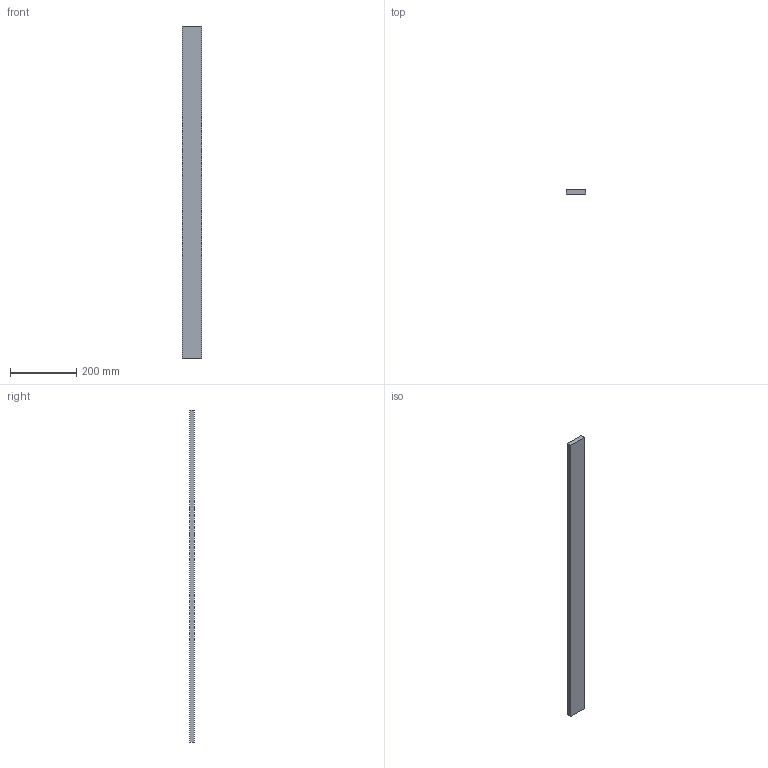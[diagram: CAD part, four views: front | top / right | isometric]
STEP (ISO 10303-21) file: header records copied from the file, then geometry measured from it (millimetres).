
FILE_DESCRIPTION(/* description */ (''),/* implementation_level */ '2;1');
FILE_NAME(/* name */ 'C:\Users\AMS43\Documents\Inventor\AMS\misumi\\X2\30B930DA30B730E330EB30D530EC30FC30E0\X0\_ipt\\X2\30B930DA30B730E330EB30D530EC30FC30E0\X0\_stp\AFFB-06015.ipt.stp',/* time_stamp */ '2016-10-06T11:40:15+09:00',/* author */ ('AMS43'),/* organization */ (''),/* preprocessor_version */ 'ST-DEVELOPER v15.2',/* originating_system */ 'Autodesk Inventor 2014',/* authorisation */ '');
FILE_SCHEMA (('AUTOMOTIVE_DESIGN { 1 0 10303 214 3 1 1 }'));
Length unit declared in the file: metre
Products named in the file (1): AFFB-06015
Bounding box: 60 x 15 x 1000 mm (x, y, z)
Volume: 900000 mm3; surface area: 151800 mm2
Topology: 1 solids, 1 shells, 6 faces, 12 edges, 8 vertices
Faces by surface type: plane 6
Entity records: 187 total; most frequent: CARTESIAN_POINT 27, DIRECTION 26, ORIENTED_EDGE 24, LINE 12, VECTOR 12, EDGE_CURVE 12, VERTEX_POINT 8, AXIS2_PLACEMENT_3D 7
